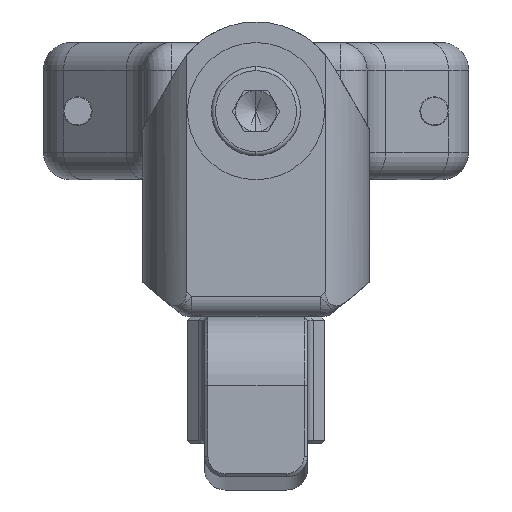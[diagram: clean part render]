
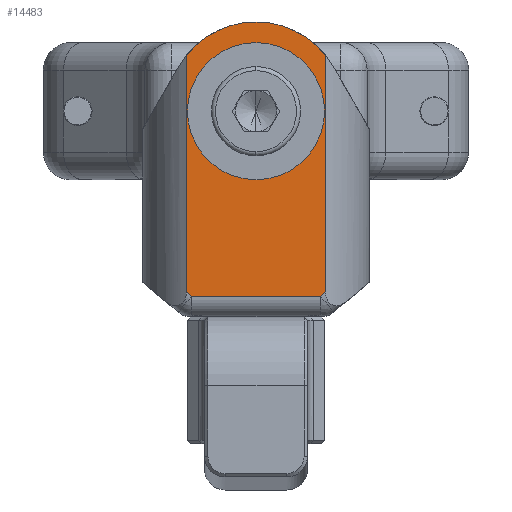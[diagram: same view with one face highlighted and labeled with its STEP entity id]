
A CAD part, left-side view. The second image highlights one B-rep face of the part: STEP entity #14483.
In plain terms, the highlighted planar face has unit normal (-1, 0, 0) as drawn and (1, 0, 0) by its records, which use the part's own axes.
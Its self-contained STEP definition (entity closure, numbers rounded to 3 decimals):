
#12347=DIRECTION('',(0.,1.,0.));
#12348=VECTOR('',#12347,34.477);
#12349=CARTESIAN_POINT('',(26.,-38.109,23.161));
#12350=LINE('',#12349,#12348);
#12700=DIRECTION('',(0.,0.,-1.));
#12701=VECTOR('',#12700,18.816);
#12702=CARTESIAN_POINT('',(26.,-3.,22.408));
#12703=LINE('',#12702,#12701);
#12793=DIRECTION('',(0.,0.643,0.766));
#12794=VECTOR('',#12793,0.983);
#12795=CARTESIAN_POINT('',(26.,-3.632,2.839));
#12796=LINE('',#12795,#12794);
#12800=CARTESIAN_POINT('',(26.,-30.,13.));
#12801=DIRECTION('',(1.,0.,0.));
#12802=DIRECTION('',(0.,-1.,0.));
#12803=AXIS2_PLACEMENT_3D('',#12800,#12801,#12802);
#12808=CARTESIAN_POINT('',(26.,-30.,13.));
#12809=DIRECTION('',(1.,0.,0.));
#12810=DIRECTION('',(0.,-0.624,0.782));
#12811=AXIS2_PLACEMENT_3D('',#12808,#12809,#12810);
#12816=DIRECTION('',(0.,-0.643,0.766));
#12817=VECTOR('',#12816,0.983);
#12818=CARTESIAN_POINT('',(26.,-3.,22.408));
#12819=LINE('',#12818,#12817);
#12823=CARTESIAN_POINT('',(26.,-30.,13.));
#12824=DIRECTION('',(-1.,0.,0.));
#12825=DIRECTION('',(0.,0.,-1.));
#12826=AXIS2_PLACEMENT_3D('',#12823,#12824,#12825);
#12831=CARTESIAN_POINT('',(26.,-30.,13.));
#12832=DIRECTION('',(-1.,0.,0.));
#12833=DIRECTION('',(0.,1.,0.));
#12834=AXIS2_PLACEMENT_3D('',#12831,#12832,#12833);
#12839=CARTESIAN_POINT('',(26.,-30.,13.));
#12840=DIRECTION('',(-1.,0.,0.));
#12841=DIRECTION('',(0.,0.,1.));
#12842=AXIS2_PLACEMENT_3D('',#12839,#12840,#12841);
#12847=CARTESIAN_POINT('',(26.,-3.632,2.839));
#12893=DIRECTION('',(0.,-1.,0.));
#12894=VECTOR('',#12893,34.477);
#12895=CARTESIAN_POINT('',(26.,-3.632,2.839));
#12896=LINE('',#12895,#12894);
#13413=CARTESIAN_POINT('',(26.,-38.109,2.839));
#13683=CARTESIAN_POINT('',(26.,-3.,3.592));
#13685=VERTEX_POINT('',#13683);
#13708=CARTESIAN_POINT('',(26.,-3.,22.408));
#13709=CARTESIAN_POINT('',(26.,-3.632,23.161));
#13710=VERTEX_POINT('',#13708);
#13711=VERTEX_POINT('',#13709);
#13744=VERTEX_POINT('',#12847);
#13788=CARTESIAN_POINT('',(26.,-38.109,23.161));
#13789=VERTEX_POINT('',#13788);
#13826=CARTESIAN_POINT('',(26.,-30.,4.5));
#13828=VERTEX_POINT('',#13826);
#13848=VERTEX_POINT('',#13413);
#13871=CARTESIAN_POINT('',(26.,-43.,13.));
#13872=VERTEX_POINT('',#13871);
#13881=CARTESIAN_POINT('',(26.,-30.,21.5));
#13882=CARTESIAN_POINT('',(26.,-21.5,13.));
#13883=VERTEX_POINT('',#13881);
#13884=VERTEX_POINT('',#13882);
#14457=CARTESIAN_POINT('',(26.,-10.,26.));
#14458=DIRECTION('',(-1.,0.,0.));
#14459=DIRECTION('',(0.,-1.,0.));
#14460=AXIS2_PLACEMENT_3D('',#14457,#14458,#14459);
#14461=PLANE('',#14460);
#14462=ORIENTED_EDGE('',*,*,#14353,.T.);
#14464=ORIENTED_EDGE('',*,*,#14463,.F.);
#14466=ORIENTED_EDGE('',*,*,#14465,.T.);
#14468=ORIENTED_EDGE('',*,*,#14467,.F.);
#14470=ORIENTED_EDGE('',*,*,#14469,.F.);
#14471=ORIENTED_EDGE('',*,*,#14086,.T.);
#14472=ORIENTED_EDGE('',*,*,#14445,.F.);
#14473=EDGE_LOOP('',(#14462,#14464,#14466,#14468,#14470,#14471,#14472));
#14474=FACE_OUTER_BOUND('',#14473,.F.);
#14476=ORIENTED_EDGE('',*,*,#14475,.F.);
#14478=ORIENTED_EDGE('',*,*,#14477,.F.);
#14480=ORIENTED_EDGE('',*,*,#14479,.F.);
#14481=EDGE_LOOP('',(#14476,#14478,#14480));
#14482=FACE_BOUND('',#14481,.F.);
#12804=CIRCLE('',#12803,13.);
#12812=CIRCLE('',#12811,13.);
#12827=CIRCLE('',#12826,8.5);
#12835=CIRCLE('',#12834,8.5);
#12843=CIRCLE('',#12842,8.5);
#14086=EDGE_CURVE('',#13789,#13711,#12350,.T.);
#14353=EDGE_CURVE('',#13710,#13685,#12703,.T.);
#14445=EDGE_CURVE('',#13710,#13711,#12819,.T.);
#14463=EDGE_CURVE('',#13744,#13685,#12796,.T.);
#14465=EDGE_CURVE('',#13744,#13848,#12896,.T.);
#14467=EDGE_CURVE('',#13872,#13848,#12804,.T.);
#14469=EDGE_CURVE('',#13789,#13872,#12812,.T.);
#14475=EDGE_CURVE('',#13828,#13883,#12827,.T.);
#14477=EDGE_CURVE('',#13884,#13828,#12835,.T.);
#14479=EDGE_CURVE('',#13883,#13884,#12843,.T.);
#14483=ADVANCED_FACE('',(#14474,#14482),#14461,.F.);
